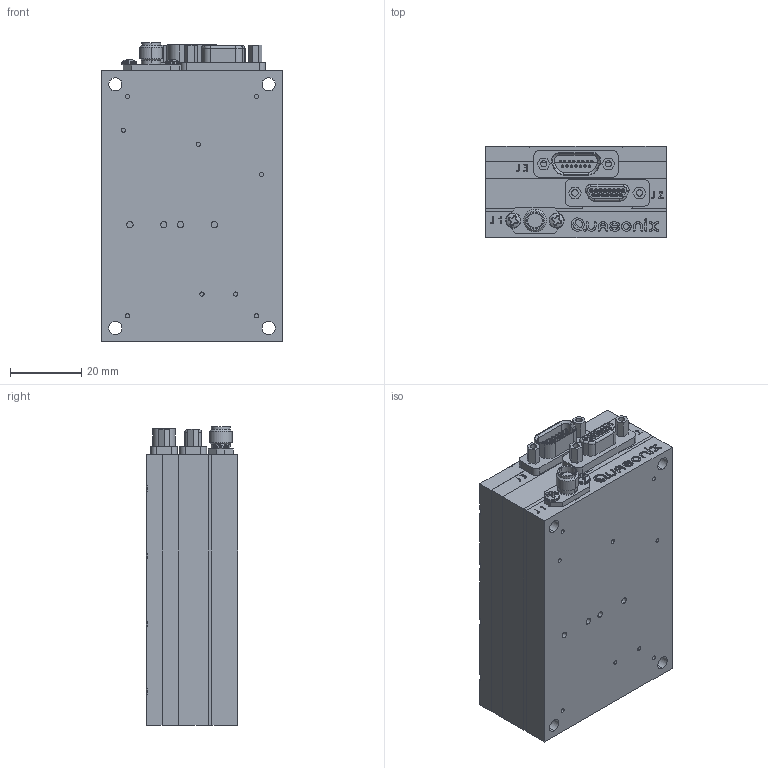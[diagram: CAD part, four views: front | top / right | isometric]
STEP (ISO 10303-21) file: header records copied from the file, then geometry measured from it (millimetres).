
FILE_DESCRIPTION (( 'STEP AP203' ), '1' );
FILE_NAME ('06AF_10-18-13.STEP', '2013-10-18T20:47:14', ( 'Quasonix' ), ( '' ), 'SwSTEP 2.0', 'SolidWorks 2012', '' );
FILE_SCHEMA (( 'CONFIG_CONTROL_DESIGN' ));
Length unit declared in the file: inch
Products named in the file (1): 06AF_10-18-13
Bounding box: 50.8 x 25.7 x 84.14 mm (x, y, z)
Surface area: 25763.1 mm2 (no closed solid volume)
Topology: 0 solids, 66 shells, 908 faces, 2995 edges, 2135 vertices
Faces by surface type: plane 489, cylinder 221, cone 99, bspline 80, torus 15, sphere 4
Entity records: 34759 total; most frequent: CARTESIAN_POINT 8673, DIRECTION 5364, ORIENTED_EDGE 4957, EDGE_CURVE 2983, VERTEX_POINT 2135, AXIS2_PLACEMENT_3D 1908, LINE 1548, VECTOR 1548
